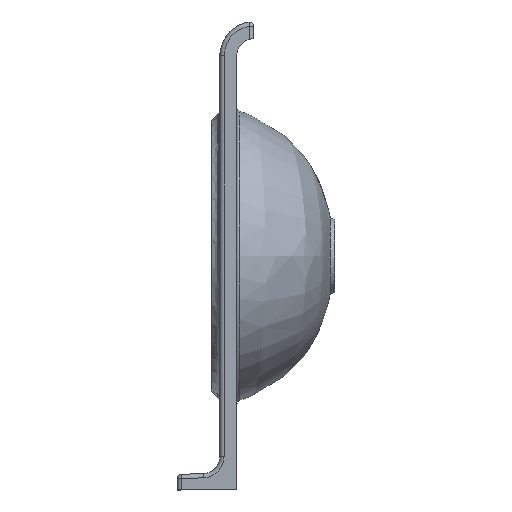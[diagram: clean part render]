
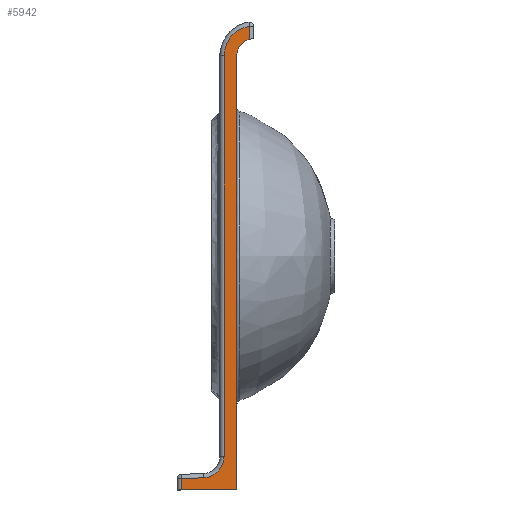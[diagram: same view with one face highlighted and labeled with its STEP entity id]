
A CAD part, left-side view. The second image highlights one B-rep face of the part: STEP entity #5942.
In plain terms, the highlighted planar face has unit normal (-1, 0, 0).
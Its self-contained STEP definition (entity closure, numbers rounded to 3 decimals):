
#138 = EDGE_CURVE ( 'NONE', #8555, #19307, #4580, .T. ) ;
#504 = AXIS2_PLACEMENT_3D ( 'NONE', #41480, #17422, #22017 ) ;
#931 = LINE ( 'NONE', #20385, #38567 ) ;
#2050 = DIRECTION ( 'NONE',  ( 0., 0., 1. ) ) ;
#2115 = DIRECTION ( 'NONE',  ( -1., 0., 0. ) ) ;
#3309 = CARTESIAN_POINT ( 'NONE',  ( -300., -35., 269.641 ) ) ;
#3665 = CARTESIAN_POINT ( 'NONE',  ( -300., -20., 0. ) ) ;
#3917 = LINE ( 'NONE', #3665, #28261 ) ;
#4291 = EDGE_CURVE ( 'NONE', #7402, #43671, #20574, .T. ) ;
#4580 = LINE ( 'NONE', #12257, #32770 ) ;
#4773 = DIRECTION ( 'NONE',  ( 0., 0., -1. ) ) ;
#5752 = VERTEX_POINT ( 'NONE', #16742 ) ;
#5942 = ADVANCED_FACE ( 'NONE', ( #33092 ), #32345, .T. ) ;
#7402 = VERTEX_POINT ( 'NONE', #43510 ) ;
#7855 = CIRCLE ( 'NONE', #25015, 25. ) ;
#8029 = ORIENTED_EDGE ( 'NONE', *, *, #34878, .T. ) ;
#8555 = VERTEX_POINT ( 'NONE', #50490 ) ;
#9301 = VERTEX_POINT ( 'NONE', #34882 ) ;
#9690 = EDGE_CURVE ( 'NONE', #19307, #43671, #37956, .T. ) ;
#9803 = ORIENTED_EDGE ( 'NONE', *, *, #49259, .F. ) ;
#10028 = CARTESIAN_POINT ( 'NONE',  ( -300., -35., 275. ) ) ;
#10231 = DIRECTION ( 'NONE',  ( 1., 0., 0. ) ) ;
#10595 = VECTOR ( 'NONE', #48690, 1000. ) ;
#10624 = EDGE_CURVE ( 'NONE', #5752, #9301, #49176, .T. ) ;
#12101 = DIRECTION ( 'NONE',  ( 0., 0., -1. ) ) ;
#12257 = CARTESIAN_POINT ( 'NONE',  ( -300., 45., -261.574 ) ) ;
#13331 = CARTESIAN_POINT ( 'NONE',  ( -300., 20., -235.686 ) ) ;
#14037 = VECTOR ( 'NONE', #43624, 1000. ) ;
#16742 = CARTESIAN_POINT ( 'NONE',  ( -300., -20., 235. ) ) ;
#17422 = DIRECTION ( 'NONE',  ( -1., 0., 0. ) ) ;
#19184 = ORIENTED_EDGE ( 'NONE', *, *, #45588, .T. ) ;
#19307 = VERTEX_POINT ( 'NONE', #41963 ) ;
#19836 = VERTEX_POINT ( 'NONE', #22499 ) ;
#20385 = CARTESIAN_POINT ( 'NONE',  ( -300., -5., -235.686 ) ) ;
#20574 = LINE ( 'NONE', #40034, #14037 ) ;
#21319 = DIRECTION ( 'NONE',  ( 0., 0., 1. ) ) ;
#22017 = DIRECTION ( 'NONE',  ( 0., 0., 1. ) ) ;
#22499 = CARTESIAN_POINT ( 'NONE',  ( -300., -5., -235.686 ) ) ;
#24115 = DIRECTION ( 'NONE',  ( 1., 0., 0. ) ) ;
#25015 = AXIS2_PLACEMENT_3D ( 'NONE', #13331, #10231, #2050 ) ;
#25408 = CARTESIAN_POINT ( 'NONE',  ( -300., -150., -275. ) ) ;
#26097 = ORIENTED_EDGE ( 'NONE', *, *, #46048, .T. ) ;
#26722 = ORIENTED_EDGE ( 'NONE', *, *, #138, .T. ) ;
#27233 = ORIENTED_EDGE ( 'NONE', *, *, #41833, .T. ) ;
#28261 = VECTOR ( 'NONE', #12101, 1000. ) ;
#30434 = ORIENTED_EDGE ( 'NONE', *, *, #4291, .F. ) ;
#30693 = ORIENTED_EDGE ( 'NONE', *, *, #9690, .T. ) ;
#31215 = AXIS2_PLACEMENT_3D ( 'NONE', #25408, #2115, #21319 ) ;
#32042 = DIRECTION ( 'NONE',  ( 0., 0., 1. ) ) ;
#32345 = PLANE ( 'NONE',  #31215 ) ;
#32770 = VECTOR ( 'NONE', #43240, 1000. ) ;
#33092 = FACE_OUTER_BOUND ( 'NONE', #39078, .T. ) ;
#33648 = AXIS2_PLACEMENT_3D ( 'NONE', #35134, #24115, #32042 ) ;
#34878 = EDGE_CURVE ( 'NONE', #49646, #19836, #931, .T. ) ;
#34882 = CARTESIAN_POINT ( 'NONE',  ( -300., -35., 254.365 ) ) ;
#35134 = CARTESIAN_POINT ( 'NONE',  ( -300., -40., 235. ) ) ;
#36452 = ORIENTED_EDGE ( 'NONE', *, *, #10624, .T. ) ;
#37956 = LINE ( 'NONE', #41801, #38550 ) ;
#38550 = VECTOR ( 'NONE', #42055, 1000. ) ;
#38567 = VECTOR ( 'NONE', #4773, 1000. ) ;
#39078 = EDGE_LOOP ( 'NONE', ( #26722, #30693, #30434, #9803, #36452, #27233, #26097, #8029, #19184 ) ) ;
#40034 = CARTESIAN_POINT ( 'NONE',  ( -300., -150., -275. ) ) ;
#40767 = LINE ( 'NONE', #10028, #10595 ) ;
#41480 = CARTESIAN_POINT ( 'NONE',  ( -300., -40., 235. ) ) ;
#41801 = CARTESIAN_POINT ( 'NONE',  ( -300., 45., -275. ) ) ;
#41833 = EDGE_CURVE ( 'NONE', #9301, #44884, #40767, .T. ) ;
#41963 = CARTESIAN_POINT ( 'NONE',  ( -300., 45., -261.574 ) ) ;
#42055 = DIRECTION ( 'NONE',  ( 0., 0., -1. ) ) ;
#43240 = DIRECTION ( 'NONE',  ( 0., 0.999, -0.035 ) ) ;
#43510 = CARTESIAN_POINT ( 'NONE',  ( -300., -20., -275. ) ) ;
#43624 = DIRECTION ( 'NONE',  ( 0., 1., 0. ) ) ;
#43671 = VERTEX_POINT ( 'NONE', #47130 ) ;
#44884 = VERTEX_POINT ( 'NONE', #3309 ) ;
#45588 = EDGE_CURVE ( 'NONE', #19836, #8555, #7855, .T. ) ;
#46048 = EDGE_CURVE ( 'NONE', #44884, #49646, #46254, .T. ) ;
#46254 = CIRCLE ( 'NONE', #504, 35. ) ;
#47130 = CARTESIAN_POINT ( 'NONE',  ( -300., 45., -275. ) ) ;
#47674 = CARTESIAN_POINT ( 'NONE',  ( -300., -5., 235. ) ) ;
#48690 = DIRECTION ( 'NONE',  ( 0., 0., 1. ) ) ;
#49176 = CIRCLE ( 'NONE', #33648, 20. ) ;
#49259 = EDGE_CURVE ( 'NONE', #5752, #7402, #3917, .T. ) ;
#49646 = VERTEX_POINT ( 'NONE', #47674 ) ;
#50490 = CARTESIAN_POINT ( 'NONE',  ( -300., 19.128, -260.671 ) ) ;
